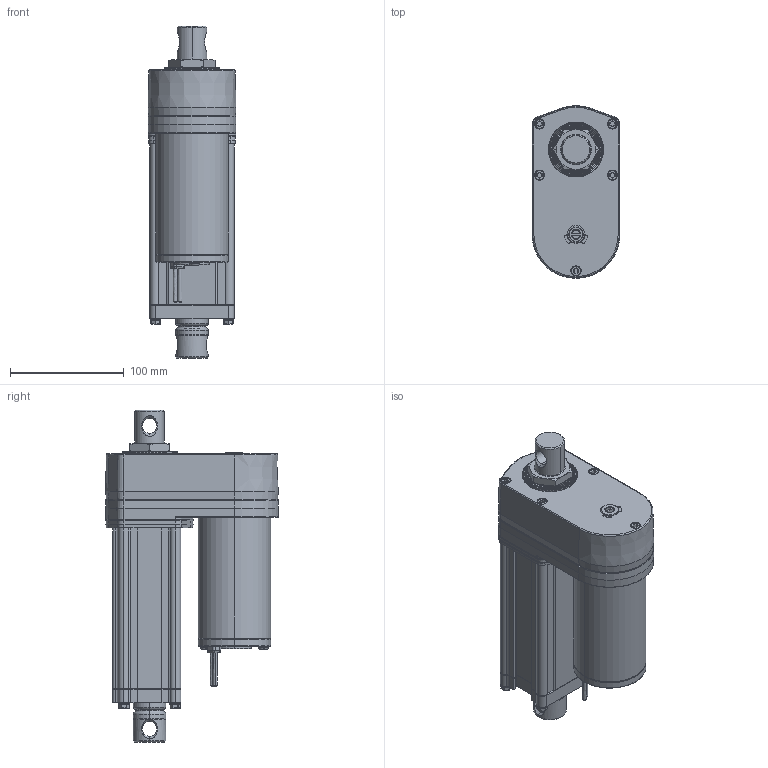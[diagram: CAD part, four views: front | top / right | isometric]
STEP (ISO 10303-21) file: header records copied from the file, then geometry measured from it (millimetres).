
FILE_DESCRIPTION (( 'STEP AP203' ), '1' );
FILE_NAME ('ID12-A-MD.STEP', '2022-11-03T06:39:25', ( '' ), ( '' ), 'SwSTEP 2.0', 'SolidWorks 2020', '' );
FILE_SCHEMA (( 'CONFIG_CONTROL_DESIGN' ));
Length unit declared in the file: millimetre
Products named in the file (3): ID12-A-2 ; ID12-A-MD; ID12-A-1
Assembly tree (2 placements, depth 2):
  ID12-A-MD
    ID12-A-1
    ID12-A-2 
Bounding box: 77.15 x 151.65 x 291.5 mm (x, y, z)
Volume: 1578053.3 mm3; surface area: 159886.9 mm2
Topology: 2 solids, 3 shells, 1181 faces, 3117 edges, 1972 vertices
Faces by surface type: plane 721, cylinder 297, cone 69, torus 64, bspline 30
Entity records: 37660 total; most frequent: CARTESIAN_POINT 9851, ORIENTED_EDGE 6186, DIRECTION 5431, EDGE_CURVE 3093, VERTEX_POINT 1972, AXIS2_PLACEMENT_3D 1910, VECTOR 1611, LINE 1611
